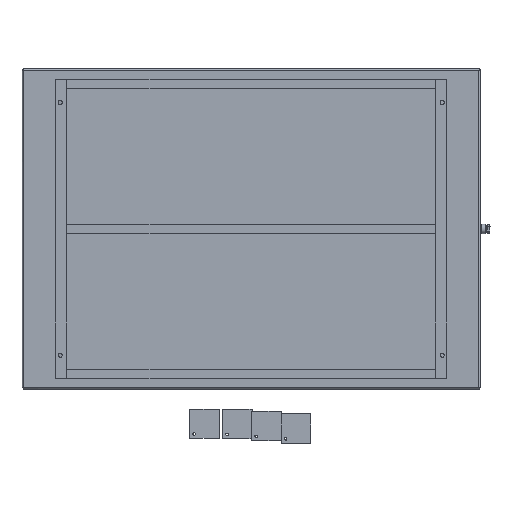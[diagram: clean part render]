
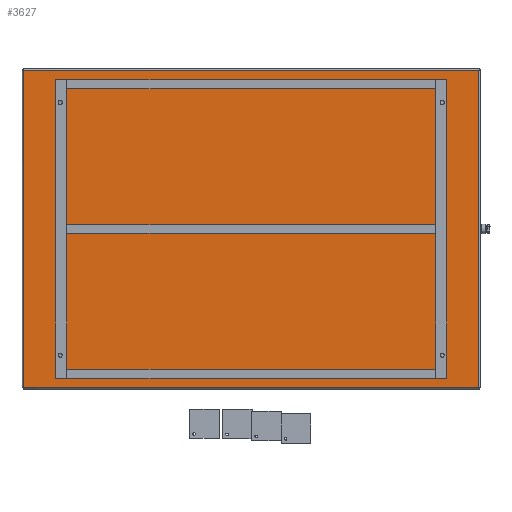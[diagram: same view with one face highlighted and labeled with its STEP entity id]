
A CAD part, front view. The second image highlights one B-rep face of the part: STEP entity #3627.
In plain terms, the highlighted planar face has unit normal (0, -1, 0).
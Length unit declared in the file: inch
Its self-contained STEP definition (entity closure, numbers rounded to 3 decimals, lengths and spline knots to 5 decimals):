
#4 = DIRECTION ( 'NONE',  ( 1., 0., 0. ) ) ;
#16 = ORIENTED_EDGE ( 'NONE', *, *, #1321, .T. ) ;
#137 = LINE ( 'NONE', #2344, #2277 ) ;
#308 = CARTESIAN_POINT ( 'NONE',  ( 0.25, -0.1875, -0.25 ) ) ;
#393 = VERTEX_POINT ( 'NONE', #2174 ) ;
#621 = DIRECTION ( 'NONE',  ( 0., 0., -1. ) ) ;
#710 = CARTESIAN_POINT ( 'NONE',  ( 77.75, -0.1875, -54.25 ) ) ;
#802 = DIRECTION ( 'NONE',  ( 0., 0., 1. ) ) ;
#828 = ORIENTED_EDGE ( 'NONE', *, *, #1271, .T. ) ;
#1047 = AXIS2_PLACEMENT_3D ( 'NONE', #2102, #1407, #621 ) ;
#1049 = DIRECTION ( 'NONE',  ( 0., 0., -1. ) ) ;
#1071 = LINE ( 'NONE', #2321, #3453 ) ;
#1101 = CARTESIAN_POINT ( 'NONE',  ( 0.25, -0.1875, -54.25 ) ) ;
#1115 = ORIENTED_EDGE ( 'NONE', *, *, #3678, .T. ) ;
#1271 = EDGE_CURVE ( 'NONE', #393, #3789, #137, .T. ) ;
#1321 = EDGE_CURVE ( 'NONE', #3230, #2085, #2453, .T. ) ;
#1407 = DIRECTION ( 'NONE',  ( 0., -1., 0. ) ) ;
#1418 = EDGE_CURVE ( 'NONE', #3789, #3230, #3114, .T. ) ;
#1462 = DIRECTION ( 'NONE',  ( -1., 0., 0. ) ) ;
#1592 = CARTESIAN_POINT ( 'NONE',  ( 0.25, -0.1875, -0.18757 ) ) ;
#1605 = EDGE_LOOP ( 'NONE', ( #16, #1115, #828, #3297 ) ) ;
#1750 = VECTOR ( 'NONE', #1049, 39.37008 ) ;
#1811 = FACE_OUTER_BOUND ( 'NONE', #1605, .T. ) ;
#1840 = CARTESIAN_POINT ( 'NONE',  ( 0.18757, -0.1875, -54.25 ) ) ;
#2085 = VERTEX_POINT ( 'NONE', #710 ) ;
#2102 = CARTESIAN_POINT ( 'NONE',  ( 0., -0.1875, 0. ) ) ;
#2174 = CARTESIAN_POINT ( 'NONE',  ( 77.75, -0.1875, -0.25 ) ) ;
#2277 = VECTOR ( 'NONE', #1462, 39.37008 ) ;
#2321 = CARTESIAN_POINT ( 'NONE',  ( 77.75, -0.1875, -54.31243 ) ) ;
#2344 = CARTESIAN_POINT ( 'NONE',  ( 77.81243, -0.1875, -0.25 ) ) ;
#2453 = LINE ( 'NONE', #1840, #3093 ) ;
#3093 = VECTOR ( 'NONE', #4, 39.37008 ) ;
#3114 = LINE ( 'NONE', #1592, #1750 ) ;
#3230 = VERTEX_POINT ( 'NONE', #1101 ) ;
#3248 = PLANE ( 'NONE',  #1047 ) ;
#3297 = ORIENTED_EDGE ( 'NONE', *, *, #1418, .T. ) ;
#3453 = VECTOR ( 'NONE', #802, 39.37008 ) ;
#3627 = ADVANCED_FACE ( 'NONE', ( #1811 ), #3248, .T. ) ;
#3678 = EDGE_CURVE ( 'NONE', #2085, #393, #1071, .T. ) ;
#3789 = VERTEX_POINT ( 'NONE', #308 ) ;
